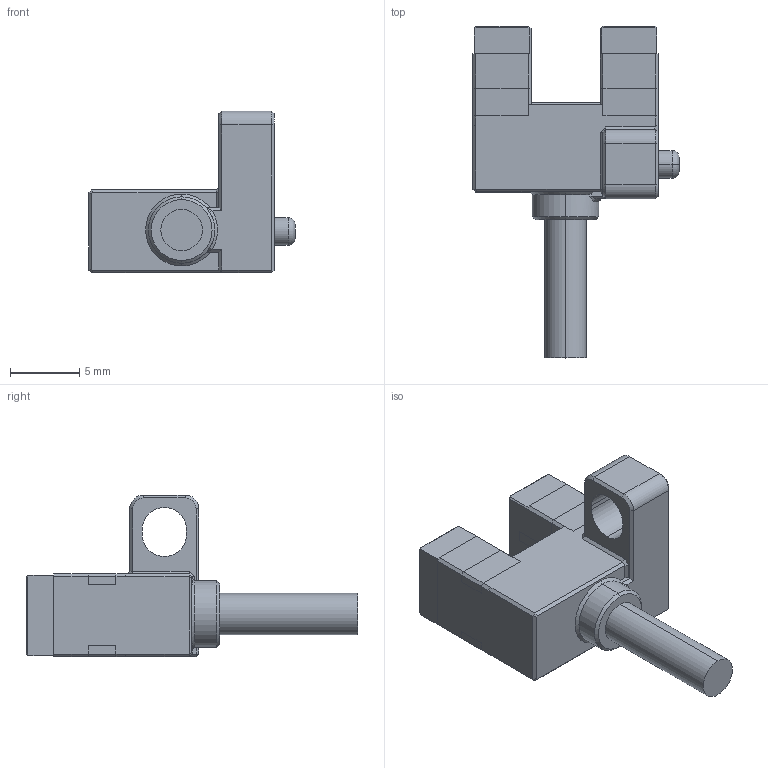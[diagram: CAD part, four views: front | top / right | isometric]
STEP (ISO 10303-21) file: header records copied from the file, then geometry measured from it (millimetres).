
FILE_DESCRIPTION (( 'STEP AP203' ), '1' );
FILE_NAME ('PU-R28.STEP', '2023-06-28T01:18:56', ( 'Windows User' ), ( 'P R C' ), 'SwSTEP 2.0', 'SolidWorks 2022', '' );
FILE_SCHEMA (( 'CONFIG_CONTROL_DESIGN' ));
Length unit declared in the file: millimetre
Products named in the file (4): 红色外壳; 零件1^R25; PU-R28; R25外包胶^R25
Assembly tree (3 placements, depth 2):
  PU-R28
    红色外壳
    R25外包胶^R25
    零件1^R25
Bounding box: 14.9 x 24 x 11.7 mm (x, y, z)
Volume: 1222.9 mm3; surface area: 1493.9 mm2
Topology: 3 solids, 11 shells, 335 faces, 853 edges, 546 vertices
Faces by surface type: plane 265, cylinder 42, cone 16, bspline 10, torus 2
Entity records: 10862 total; most frequent: CARTESIAN_POINT 2430, ORIENTED_EDGE 1706, DIRECTION 1568, EDGE_CURVE 853, VECTOR 720, LINE 720, VERTEX_POINT 546, AXIS2_PLACEMENT_3D 424
